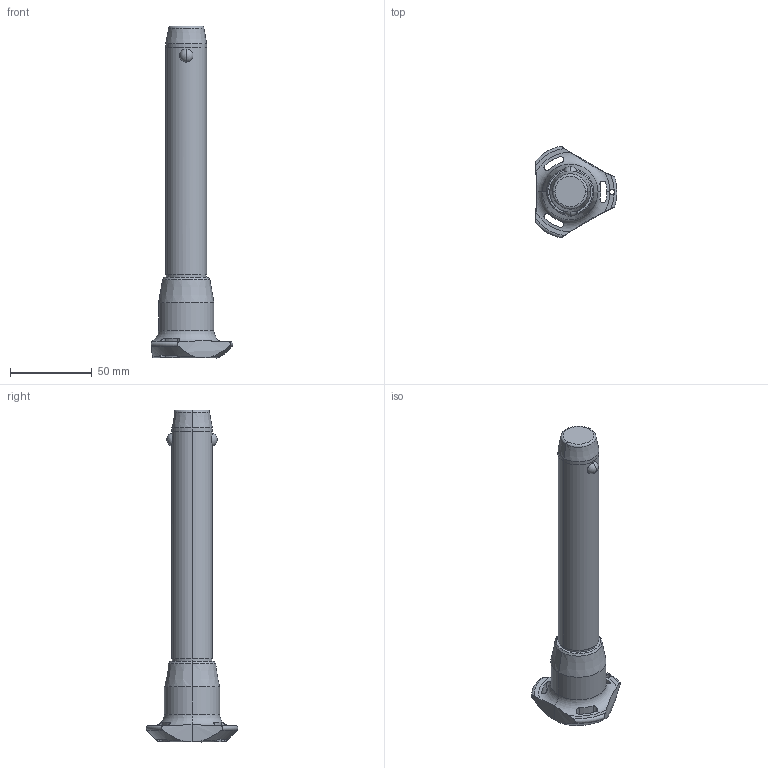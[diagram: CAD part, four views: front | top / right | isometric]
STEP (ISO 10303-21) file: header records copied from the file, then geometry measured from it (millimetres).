
FILE_DESCRIPTION (( 'STEP AP203' ), '1' );
FILE_NAME ('QR1716.M25-130-T.step', '2025-11-13T10:47:31', ( '' ), ( '' ), 'SwSTEP 2.0', 'SolidWorks 2019', '' );
FILE_SCHEMA (( 'CONFIG_CONTROL_DESIGN' ));
Length unit declared in the file: millimetre
Products named in the file (1): QR1716.M25-130-T
Bounding box: 50.05 x 56.02 x 202.7 mm (x, y, z)
Volume: 122265.4 mm3; surface area: 21660 mm2
Topology: 1 solids, 1 shells, 68 faces, 182 edges, 115 vertices
Faces by surface type: cylinder 32, cone 14, torus 11, sphere 6, plane 5
Entity records: 2938 total; most frequent: CARTESIAN_POINT 1192, ORIENTED_EDGE 364, DIRECTION 345, EDGE_CURVE 182, AXIS2_PLACEMENT_3D 154, VERTEX_POINT 115, CIRCLE 85, EDGE_LOOP 75
